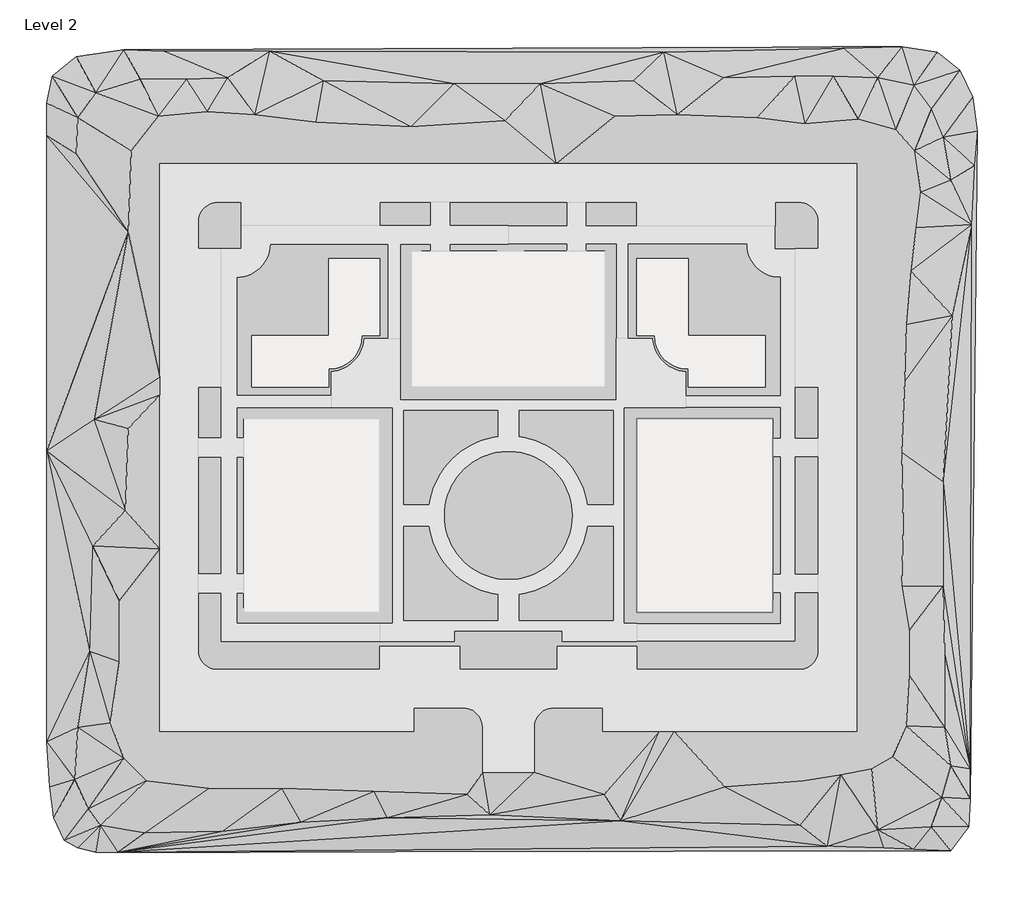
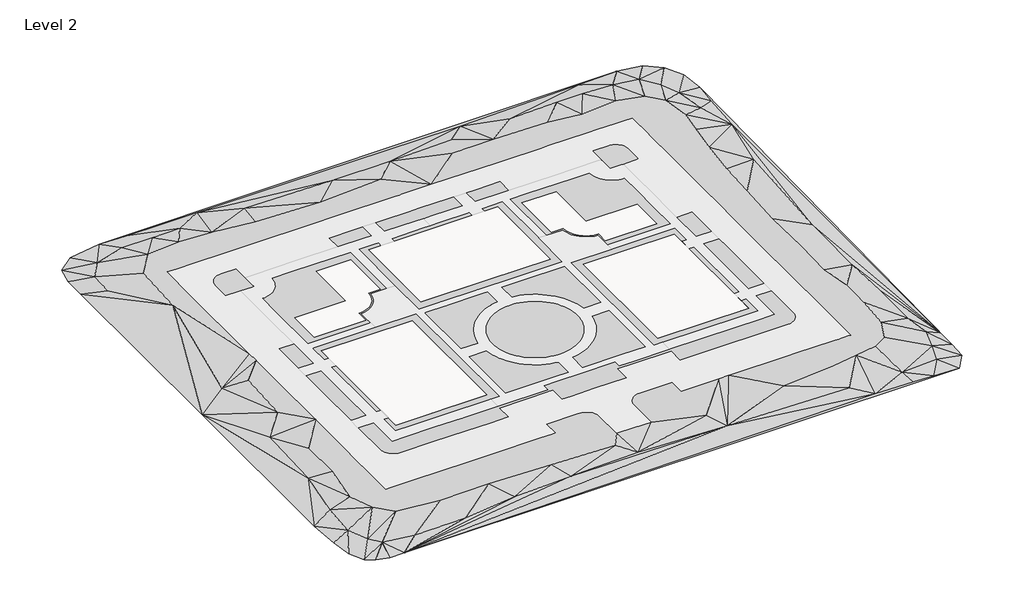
# One storey, part 2 of 3: 2 proxies.
"""IFC4 building model written with IfcOpenShell, lengths in millimetres."""

import ifcopenshell
import ifcopenshell.guid

model = None  # the IFC model being written
_history = None  # IfcOwnerHistory: only IFC2X3 demands one
_inside = {}  # id of a spatial element -> (the spatial element, [elements in it])
_under = {}  # id of a project, library or spatial element -> (it, [spatial elements below it])
_declared = {}  # id of a project -> (the project, [libraries it declares])
_typed = {}  # id of a type object -> (the type object, [elements of that type])
_made_of = {}  # id of a material, layer set ... -> (it, [elements and type objects made of it])


def new_model(schema):
    """Start an empty IFC model of exactly this schema.

    Asked for "IFC4X3", IfcOpenShell would pick the latest addendum, in which some entities
    have other attributes; the version numbers below select the first issue.
    IFC2X3 requires an IfcOwnerHistory on every rooted entity: one is made here for all.
    """
    global model, _history
    if schema == "IFC4X3":
        model = ifcopenshell.file(schema_version=(4, 3, 0, 0))
    else:
        model = ifcopenshell.file(schema=schema)
    _inside.clear()
    _under.clear()
    _declared.clear()
    _typed.clear()
    _made_of.clear()
    _history = None
    if model.schema == "IFC2X3":
        org = make("IfcOrganization", Name="unknown")
        user = make(
            "IfcPersonAndOrganization",
            ThePerson=make("IfcPerson", FamilyName="unknown"),
            TheOrganization=org,
        )
        app = make(
            "IfcApplication",
            ApplicationDeveloper=org,
            Version="unknown",
            ApplicationFullName="unknown",
            ApplicationIdentifier="unknown",
        )
        _history = make(
            "IfcOwnerHistory",
            OwningUser=user,
            OwningApplication=app,
            ChangeAction="ADDED",
            CreationDate=0,
        )
    return model


def make(cls, **values):
    """One entity of the class cls with the attributes given. An attribute that is None is left unset."""
    return model.create_entity(
        cls, **{name: value for name, value in values.items() if value is not None}
    )


def rooted(cls, **values):
    """An entity with a GlobalId (a new one), such as an element, a storey or a relation."""
    return make(cls, GlobalId=ifcopenshell.guid.new(), OwnerHistory=_history, **values)


def si_unit(unit_type, name, prefix=None):
    """IfcSIUnit, for example si_unit("LENGTHUNIT", "METRE", prefix="MILLI")."""
    return make("IfcSIUnit", UnitType=unit_type, Prefix=prefix, Name=name)


def assignment(units):
    """IfcUnitAssignment: the units of a project."""
    return None if units is None else make("IfcUnitAssignment", Units=units)


def point(xyz):
    """IfcCartesianPoint."""
    return None if xyz is None else make("IfcCartesianPoint", Coordinates=xyz)


def direction(xyz):
    """IfcDirection."""
    return None if xyz is None else make("IfcDirection", DirectionRatios=xyz)


def frame(location, z_axis=None, x_axis=None):
    """IfcAxis2Placement3D, a coordinate frame: its origin and axes. An axis left out is left unset."""
    return make(
        "IfcAxis2Placement3D",
        Location=point(location),
        Axis=direction(z_axis),
        RefDirection=direction(x_axis),
    )


def origin():
    """The frame at (0, 0, 0) with its axes left unset."""
    return frame((0.0, 0.0, 0.0))


def place(relative_to, where):
    """IfcLocalPlacement: puts the frame where relative to a parent placement (None: the world)."""
    return make(
        "IfcLocalPlacement", PlacementRelTo=relative_to, RelativePlacement=where
    )


def context(
    kind, dimensions, precision=None, world=None, true_north=None, identifier=None
):
    """IfcGeometricRepresentationContext, for example the 3D "Model" context."""
    return make(
        "IfcGeometricRepresentationContext",
        ContextIdentifier=identifier,
        ContextType=kind,
        CoordinateSpaceDimension=dimensions,
        Precision=precision,
        WorldCoordinateSystem=world,
        TrueNorth=true_north,
    )


def project(units=None, contexts=None):
    """IfcProject with its units and contexts."""
    return rooted(
        "IfcProject",
        Name="project",
        RepresentationContexts=contexts,
        UnitsInContext=assignment(units),
    )


def spatial(cls, under=None, at=None, **own):
    """A site, building, storey or space (cls), placed at a placement, below another one or the project."""
    s = rooted(cls, ObjectPlacement=at, **own)
    if under is not None:
        _under.setdefault(under.id(), (under, []))[1].append(s)
    return s


def point_list(points):
    """IfcCartesianPointList2D or 3D."""
    cls = (
        "IfcCartesianPointList2D" if len(points[0]) == 2 else "IfcCartesianPointList3D"
    )
    return make(cls, CoordList=points)


def triangles(points, corners, closed=None, point_numbers=None):
    """IfcTriangulatedFaceSet: each triangle names its three corners, points numbered from 1."""
    return make(
        "IfcTriangulatedFaceSet",
        Coordinates=point_list(points),
        Closed=closed,
        CoordIndex=corners,
        PnIndex=point_numbers,
    )


def shape(context_of_items, identifier, shape_type, items):
    """IfcShapeRepresentation: the items that make up one representation, for example the "Body"."""
    return make(
        "IfcShapeRepresentation",
        ContextOfItems=context_of_items,
        RepresentationIdentifier=identifier,
        RepresentationType=shape_type,
        Items=items,
    )


def made_of(thing, what):
    """Note that an element or type object is made of a material, layer set ...; save() writes the relation."""
    if what is not None:
        _made_of.setdefault(what.id(), (what, []))[1].append(thing)
    return thing


def element(
    cls,
    number,
    at=None,
    inside=None,
    cuts=None,
    type_object=None,
    material=None,
    context=None,
    identifier="Body",
    shape_type=None,
    held_by="IfcProductDefinitionShape",
    body=None,
    shapes=None,
    **own,
):
    """One element of the class cls, such as IfcWall. Its Tag is "e" and its number.

    at: its placement. inside: the storey or other place that contains it. cuts: it is an
    opening in that element (IfcRelVoidsElement). A single representation is given by context,
    identifier, shape_type and body (its items); several are given by shapes. held_by: the class
    of the entity that holds the representations. save() writes the other relations.
    """
    e = rooted(cls, Tag="e%d" % number, ObjectPlacement=at, **own)
    if body is not None:
        shapes = [shape(context, identifier, shape_type, body)]
    if shapes is not None:
        e.Representation = make(held_by, Representations=shapes)
    if inside is not None:
        _inside.setdefault(inside.id(), (inside, []))[1].append(e)
    if cuts is not None:
        rooted(
            "IfcRelVoidsElement", RelatingBuildingElement=cuts, RelatedOpeningElement=e
        )
    if type_object is not None:
        _typed.setdefault(type_object.id(), (type_object, []))[1].append(e)
    return made_of(e, material)


def aggregate(whole, parts):
    """IfcRelAggregates: a whole, such as a stair, and the parts it consists of."""
    return rooted("IfcRelAggregates", RelatingObject=whole, RelatedObjects=parts)


def save(model, path):
    """Write the relations noted so far, then the file.

    IfcRelAggregates (storeys below a building ...), IfcRelContainedInSpatialStructure (elements
    in a storey), IfcRelDefinesByType, IfcRelAssociatesMaterial and IfcRelDeclares: one each for
    every whole, place, type object, material and project.
    """
    for whole, parts in _under.values():
        aggregate(whole, parts)
    for where, things in _inside.values():
        rooted(
            "IfcRelContainedInSpatialStructure",
            RelatedElements=things,
            RelatingStructure=where,
        )
    for kind, things in _typed.values():
        rooted("IfcRelDefinesByType", RelatedObjects=things, RelatingType=kind)
    for what, things in _made_of.values():
        rooted("IfcRelAssociatesMaterial", RelatedObjects=things, RelatingMaterial=what)
    for by, libraries in _declared.values():
        rooted("IfcRelDeclares", RelatingContext=by, RelatedDefinitions=libraries)
    model.write(path)


model = new_model("IFC4")

# Units and contexts
model_context = context("Model", 3, world=origin())
ifc_project = project(units=[si_unit("LENGTHUNIT", "METRE", prefix="MILLI")], contexts=[model_context])

# Site, building, storey
site = spatial("IfcSite", under=ifc_project)
building = spatial("IfcBuilding", under=site)
storey = spatial("IfcBuildingStorey", under=building, Name="Level 2", Elevation=3047.9999999)

# Proxies
placement = place(None, origin())
element("IfcBuildingElementProxy", 1, Name="Building Element Proxy", at=placement, inside=storey, context=model_context, shape_type="Tessellation", body=[
    triangles([(-199970.6219238, -770.6450392, 0.0), (-199970.6219238, -75600.9481934, 0.0), (-199970.6219238, -144783.6834961, 0.0), (-199264.6743164, -155372.8790039, 0.0), (-198205.762207, -162785.3195801, 0.0), (-195734.9362793, -168079.917334, 0.0), (-192558.1813477, -169844.7770508, 0.0), (-188322.5143066, -170903.6891602, 0.0), (-183027.9165527, -170903.6891602, 0.0), (14637.0472687, -170550.7246582, 0.0), (18872.7247742, -164903.1624023, 0.0), (19225.6974152, -158196.6694336, 0.0), (20990.5629456, 288.2743554, 0.0), (19931.6438599, 8406.6566345, 0.0), (16754.8854401, 14760.1734741, 0.0), (11460.2888489, 18995.8509796, 0.0), (2988.9332565, 20407.7427063, 0.0), (-181616.0213379, 19701.7974243, 0.0), (-192911.1644531, 17936.9307312, 0.0), (-198558.726709, 13348.2805847, 0.0), (-199970.6219238, 6994.7637451, 0.0), (-120842.3541504, -30007.5218628, 3048.0), (-120842.3541504, -48295.5218628, 3048.0), (-125109.5541504, -48295.5218628, 3048.0), (-125159.383667, -49182.8165405, 3048.0), (-125308.248999, -50058.9537598, 3048.0), (-125554.2711914, -50912.9155884, 3048.0), (-125894.3620605, -51733.963147, 3048.0), (-126324.2334961, -52511.7714844, 3048.0), (-126838.4997803, -53236.5551514, 3048.0), (-127430.6775879, -53899.2030762, 3048.0), (-128093.3255127, -54491.3808838, 3048.0), (-128818.1091797, -55005.6425171, 3048.0), (-129595.9128662, -55435.5186035, 3048.0), (-130416.9604248, -55775.6094727, 3048.0), (-131270.9269043, -56021.631665, 3048.0), (-132147.0594727, -56170.4923462, 3048.0), (-133034.3541504, -56220.3218628, 3048.0), (-133034.3541504, -60487.5218628, 3048.0), (-151322.3541504, -60487.5218628, 3048.0), (-151322.3541504, -48295.5218628, 3048.0), (-133034.3541504, -48295.5218628, 3048.0), (-133034.3541504, -30007.5218628, 3048.0), (-59882.3588013, -30007.5218628, 3048.0), (-52023.1268921, -30007.5218628, 3048.0), (-47690.3588013, -30007.5218628, 3048.0), (-47690.3588013, -33626.2753967, 3048.0), (-47690.3588013, -48295.5218628, 3048.0), (-30126.7308655, -48295.5218628, 3048.0), (-29402.3588013, -48295.5218628, 3048.0), (-29402.3588013, -48900.5221436, 3048.0), (-29402.3588013, -60487.5218628, 3048.0), (-47690.3588013, -60487.5218628, 3048.0), (-47690.3588013, -56220.3218628, 3048.0), (-48577.653479, -56170.4923462, 3048.0), (-49453.7906982, -56021.631665, 3048.0), (-50307.7525269, -55775.6094727, 3048.0), (-51128.8000854, -55435.5186035, 3048.0), (-51906.603772, -55005.6425171, 3048.0), (-52631.3920898, -54491.3808838, 3048.0), (-53294.0400146, -53899.2030762, 3048.0), (-53886.2178223, -53236.5551514, 3048.0), (-54400.4794556, -52511.7714844, 3048.0), (-54830.355542, -51733.963147, 3048.0), (-55170.4464111, -50912.9155884, 3048.0), (-55416.4686035, -50058.9537598, 3048.0), (-55565.3292847, -49182.8165405, 3048.0), (-55615.1588013, -48295.5218628, 3048.0), (-59882.3588013, -48295.5218628, 3048.0), (-96458.3541504, -141259.5265137, 3048.0), (-96504.8908447, -140608.8592529, 3048.0), (-96643.5521484, -139971.4376953, 3048.0), (-96871.5196289, -139360.2470947, 3048.0), (-97184.1424072, -138787.7145996, 3048.0), (-97575.0673828, -138265.4953125, 3048.0), (-98036.332251, -137804.2304443, 3048.0), (-98558.5515381, -137413.3147705, 3048.0), (-98978.0329102, -137184.2496826, 3048.0), (-99131.0840332, -137100.6826904, 3048.0), (-99742.2746338, -136872.7245117, 3048.0), (-100379.6961914, -136734.0539063, 3048.0), (-101030.3541504, -136687.5265137, 3048.0), (-101809.9809814, -136687.5265137, 3048.0), (-112765.1541504, -136687.5265137, 3048.0), (-112765.1541504, -142173.9265137, 3048.0), (-113948.1331055, -142173.9265137, 3048.0), (-118098.4844238, -142173.9265137, 3048.0), (-134914.7603027, -142173.9265137, 3048.0), (-141364.1619873, -142173.9265137, 3048.0), (-155924.3616211, -142173.9265137, 3048.0), (-161579.2164551, -142173.9265137, 3048.0), (-171062.6189941, -142173.9265137, 3048.0), (-173115.5541504, -142173.9265137, 3048.0), (-173115.5541504, -139265.5924072, 3048.0), (-173115.5541504, -133177.6942383, 3048.0), (-173115.5541504, -122301.5302002, 3048.0), (-173115.5541504, -118406.8004883, 3048.0), (-173115.5541504, -98940.6863525, 3048.0), (-173115.5541504, -96485.831543, 3048.0), (-173115.5541504, -78335.3859375, 3048.0), (-173115.5541504, -62355.6543457, 3048.0), (-173115.5541504, -58140.023291, 3048.0), (-173115.5541504, -19343.470459, 3048.0), (-173115.5541504, -16797.6432953, 3048.0), (-173115.5541504, -12340.9792786, 3048.0), (-173115.5541504, -7452.3218628, 3048.0), (-169916.8098633, -7452.3218628, 3048.0), (-163060.4655762, -7452.3218628, 3048.0), (-152868.4644287, -7452.3218628, 3048.0), (-142112.3953857, -7452.3218628, 3048.0), (-121728.1977539, -7452.3218628, 3048.0), (-112747.4808105, -7452.3218628, 3048.0), (-91818.4420166, -7452.3218628, 3048.0), (-90362.3541504, -7452.3218628, 3048.0), (-89744.5965088, -7452.3218628, 3048.0), (-79028.6831543, -7452.3218628, 3048.0), (-55510.2210205, -7452.3218628, 3048.0), (-52788.1732178, -7452.3218628, 3048.0), (-40375.0099731, -7452.3218628, 3048.0), (-37615.0575073, -7452.3218628, 3048.0), (-23395.2487244, -7452.3218628, 3048.0), (-20332.1054626, -7452.3218628, 3048.0), (-13137.2725342, -7452.3218628, 3048.0), (-9769.8966797, -7452.3218628, 3048.0), (-7609.1582199, -7452.3218628, 3048.0), (-7609.1582199, -9469.011557, 3048.0), (-7609.1582199, -15160.5374084, 3048.0), (-7609.1582199, -20175.2708496, 3048.0), (-7609.1582199, -29394.9894836, 3048.0), (-7609.1582199, -34925.2565735, 3048.0), (-7609.1582199, -45786.2285156, 3048.0), (-7609.1582199, -48692.6557617, 3048.0), (-7609.1582199, -63543.7213623, 3048.0), (-7609.1582199, -67102.3320557, 3048.0), (-7609.1582199, -88141.7269043, 3048.0), (-7609.1582199, -103111.0178467, 3048.0), (-7609.1582199, -109311.1696289, 3048.0), (-7609.1582199, -119744.5513916, 3048.0), (-7609.1582199, -128757.108252, 3048.0), (-7609.1582199, -135897.4445068, 3048.0), (-7609.1582199, -141262.8472412, 3048.0), (-7609.1582199, -142173.9265137, 3048.0), (-8520.228772, -142173.9265137, 3048.0), (-12021.3371613, -142173.9265137, 3048.0), (-14368.7717834, -142173.9265137, 3048.0), (-27380.2333923, -142173.9265137, 3048.0), (-30015.5818359, -142173.9265137, 3048.0), (-50988.4086548, -142173.9265137, 3048.0), (-54593.6723145, -142173.9265137, 3048.0), (-67959.5588013, -142173.9265137, 3048.0), (-67959.5588013, -136687.5265137, 3048.0), (-70630.3399658, -136687.5265137, 3048.0), (-79694.3541504, -136687.5265137, 3048.0), (-80345.0214111, -136734.0539063, 3048.0), (-80982.4429688, -136872.7245117, 3048.0), (-81593.6335693, -137100.6826904, 3048.0), (-82166.1660645, -137413.3147705, 3048.0), (-82688.3853516, -137804.2304443, 3048.0), (-83149.640918, -138265.4953125, 3048.0), (-83540.5658936, -138787.7145996, 3048.0), (-83853.1979736, -139360.2470947, 3048.0), (-84081.1561523, -139971.4376953, 3048.0), (-84219.8174561, -140608.8592529, 3048.0), (-84266.3541504, -141259.5265137, 3048.0), (-84266.3541504, -151927.5265137, 3048.0), (-90362.3541504, -151927.5265137, 3048.0), (-96458.3541504, -151927.5265137, 3048.0), (-153151.1541504, -67955.1218628, 3048.0), (-120842.3541504, -67955.1218628, 3048.0), (-120842.3541504, -113979.9265137, 3048.0), (-140079.1613525, -113979.9265137, 3048.0), (-152049.379541, -113979.9265137, 3048.0), (-153151.1541504, -113979.9265137, 3048.0), (-153151.1541504, -113064.9684082, 3048.0), (-153151.1541504, -109407.9265137, 3048.0), (-154848.0459229, -109407.9265137, 3048.0), (-154848.0459229, -111655.8079102, 3048.0), (-154848.0459229, -116570.7265137, 3048.0), (-148929.5606689, -116570.7265137, 3048.0), (-137677.9311768, -116570.7265137, 3048.0), (-120842.3541504, -116570.7265137, 3048.0), (-117794.3541504, -116570.7265137, 3048.0), (-117794.3541504, -65364.3218628, 3048.0), (-132424.7541504, -65364.3218628, 3048.0), (-154848.0459229, -65364.3218628, 3048.0), (-154848.0459229, -72527.1218628, 3048.0), (-153151.1541504, -72527.1218628, 3048.0), (-67349.9588013, -28178.7218628, 3048.0), (-67349.9588013, -60487.5218628, 3048.0), (-81900.5357666, -60487.5218628, 3048.0), (-94745.3238281, -60487.5218628, 3048.0), (-108258.9733887, -60487.5218628, 3048.0), (-113374.7541504, -60487.5218628, 3048.0), (-113374.7541504, -28178.7218628, 3048.0), (-110993.3460205, -28178.7218628, 3048.0), (-108802.7541504, -28178.7218628, 3048.0), (-108802.7541504, -26481.8370667, 3048.0), (-111136.9651611, -26481.8370667, 3048.0), (-115965.5541504, -26481.8370667, 3048.0), (-115965.5541504, -48905.1218628, 3048.0), (-115965.5541504, -63535.5218628, 3048.0), (-108001.017041, -63535.5218628, 3048.0), (-94913.5368164, -63535.5218628, 3048.0), (-81449.735376, -63535.5218628, 3048.0), (-64759.1588013, -63535.5218628, 3048.0), (-64759.1588013, -48905.1218628, 3048.0), (-64759.1588013, -26481.8370667, 3048.0), (-71921.9588013, -26481.8370667, 3048.0), (-71921.9588013, -28178.7218628, 3048.0), (-27573.5588013, -113979.9265137, 3048.0), (-30077.1524963, -113979.9265137, 3048.0), (-59882.3588013, -113979.9265137, 3048.0), (-59882.3588013, -67955.1218628, 3048.0), (-27573.5588013, -67955.1218628, 3048.0), (-27573.5588013, -72527.1218628, 3048.0), (-25876.6740051, -72527.1218628, 3048.0), (-25876.6740051, -65364.3218628, 3048.0), (-48299.9588013, -65364.3218628, 3048.0), (-62930.3588013, -65364.3218628, 3048.0), (-62930.3588013, -116570.7265137, 3048.0), (-59882.3588013, -116570.7265137, 3048.0), (-32330.0219604, -116570.7265137, 3048.0), (-25876.6740051, -116570.7265137, 3048.0), (-25876.6740051, -109407.9265137, 3048.0), (-26101.4998169, -109407.9265137, 3048.0), (-27573.5588013, -109407.9265137, 3048.0), (-27573.5588013, -111100.790625, 3048.0), (-120842.3541504, -16596.3218628, 3048.0), (-120842.3541504, -22082.7218628, 3048.0), (-111509.2680176, -22082.7218628, 3048.0), (-108802.7541504, -22082.7218628, 3048.0), (-108802.7541504, -16596.3218628, 3048.0), (-111973.5931641, -16596.3218628, 3048.0), (-92323.0716797, -16596.3218628, 3048.0), (-104230.7541504, -16596.3218628, 3048.0), (-104230.7541504, -22082.7218628, 3048.0), (-92625.8531982, -22082.7218628, 3048.0), (-90362.3541504, -22082.7218628, 3048.0), (-87580.7192871, -22082.7218628, 3048.0), (-76493.9588013, -22082.7218628, 3048.0), (-76493.9588013, -16596.3218628, 3048.0), (-88392.1767334, -16596.3218628, 3048.0), (-68080.4816528, -16596.3218628, 3048.0), (-71921.9588013, -16596.3218628, 3048.0), (-71921.9588013, -22082.7218628, 3048.0), (-61511.5616821, -22082.7218628, 3048.0), (-59882.3588013, -22082.7218628, 3048.0), (-59882.3588013, -16596.3218628, 3048.0), (-26963.9588013, -22082.7218628, 3048.0), (-26963.9588013, -23142.3757874, 3048.0), (-26963.9588013, -27569.1218628, 3048.0), (-23180.2037109, -27569.1218628, 3048.0), (-22239.5588013, -27569.1218628, 3048.0), (-16753.1576385, -27569.1218628, 3048.0), (-16753.1576385, -26553.1513184, 3048.0), (-16753.1576385, -21168.3218628, 3048.0), (-16799.6943329, -20517.6592529, 3048.0), (-16938.3556366, -19880.2400208, 3048.0), (-17166.3207916, -19269.0447693, 3048.0), (-17478.9470581, -18696.5122742, 3048.0), (-17869.870871, -18174.2988007, 3048.0), (-18331.1345764, -17713.0350952, 3048.0), (-18853.3480499, -17322.1112823, 3048.0), (-19425.880545, -17009.4838531, 3048.0), (-20037.0769592, -16781.5198608, 3048.0), (-20674.493866, -16642.8585571, 3048.0), (-21325.1588013, -16596.3218628, 3048.0), (-26963.9588013, -16596.3218628, 3048.0), (-26963.9588013, -17204.3033569, 3048.0), (-22239.5588013, -60487.5218628, 3048.0), (-22239.5588013, -72527.1218628, 3048.0), (-16753.1576385, -72527.1218628, 3048.0), (-16753.1576385, -60487.5218628, 3048.0), (-16753.1576385, -98657.3269043, 3048.0), (-16753.1576385, -77099.1218628, 3048.0), (-22239.5588013, -77099.1218628, 3048.0), (-22239.5588013, -104835.9265137, 3048.0), (-22125.8471375, -104835.9265137, 3048.0), (-16753.1576385, -104835.9265137, 3048.0), (-16753.1576385, -111345.1664063, 3048.0), (-16753.1576385, -109407.9265137, 3048.0), (-22239.5588013, -109407.9265137, 3048.0), (-22239.5588013, -116285.655542, 3048.0), (-22239.5588013, -120837.9265137, 3048.0), (-27294.8409302, -120837.9265137, 3048.0), (-36040.6303528, -120837.9265137, 3048.0), (-59882.3588013, -120837.9265137, 3048.0), (-72974.5410645, -120837.9265137, 3048.0), (-77560.7588013, -120837.9265137, 3048.0), (-77560.7588013, -118399.5265137, 3048.0), (-90362.3541504, -118399.5265137, 3048.0), (-97941.352002, -118399.5265137, 3048.0), (-103163.9541504, -118399.5265137, 3048.0), (-103163.9541504, -120689.163501, 3048.0), (-103163.9541504, -120837.9265137, 3048.0), (-120842.3541504, -120837.9265137, 3048.0), (-133722.9632813, -120837.9265137, 3048.0), (-143791.0557129, -120837.9265137, 3048.0), (-153767.2095703, -120837.9265137, 3048.0), (-158485.1541504, -120837.9265137, 3048.0), (-158485.1541504, -115498.4384766, 3048.0), (-158485.1541504, -109407.9265137, 3048.0), (-163866.7233398, -109407.9265137, 3048.0), (-163971.5541504, -109407.9265137, 3048.0), (-163971.5541504, -122971.5265137, 3048.0), (-163925.0267578, -123622.1844727, 3048.0), (-163786.3561523, -124259.6060303, 3048.0), (-163558.3886719, -124870.7966309, 3048.0), (-163245.7751953, -125443.329126, 3048.0), (-162854.840918, -125965.5484131, 3048.0), (-162393.5853516, -126426.8132813, 3048.0), (-161871.3660645, -126817.7289551, 3048.0), (-161298.8428711, -127130.3610352, 3048.0), (-160687.6429688, -127358.3192139, 3048.0), (-160050.2307129, -127496.9898193, 3048.0), (-159399.5541504, -127543.5265137, 3048.0), (-147842.1479736, -127543.5265137, 3048.0), (-135716.2462646, -127543.5265137, 3048.0), (-127508.0124023, -127543.5265137, 3048.0), (-120842.3541504, -127543.5265137, 3048.0), (-120842.3541504, -122057.1265137, 3048.0), (-103048.1844727, -122057.1265137, 3048.0), (-101944.7541504, -122057.1265137, 3048.0), (-101944.7541504, -127543.5265137, 3048.0), (-98445.9909668, -127543.5265137, 3048.0), (-90362.3541504, -127543.5265137, 3048.0), (-78779.9541504, -127543.5265137, 3048.0), (-78779.9541504, -122057.1265137, 3048.0), (-72794.2171875, -122057.1265137, 3048.0), (-59882.3588013, -122057.1265137, 3048.0), (-59882.3588013, -127543.5265137, 3048.0), (-41871.5883911, -127543.5265137, 3048.0), (-34741.3910522, -127543.5265137, 3048.0), (-21325.1588013, -127543.5265137, 3048.0), (-20674.493866, -127496.9898193, 3048.0), (-20037.0769592, -127358.3192139, 3048.0), (-19872.0754028, -127296.7787842, 3048.0), (-19425.880545, -127130.3610352, 3048.0), (-18853.3480499, -126817.7289551, 3048.0), (-18331.1345764, -126426.8132813, 3048.0), (-17869.870871, -125965.5484131, 3048.0), (-17478.9470581, -125443.329126, 3048.0), (-17166.3207916, -124870.7966309, 3048.0), (-16938.3556366, -124259.6060303, 3048.0), (-16799.6943329, -123622.1844727, 3048.0), (-16753.1576385, -122971.5265137, 3048.0), (-16753.1576385, -122722.3696289, 3048.0), (-153151.1541504, -104835.9265137, 3048.0), (-153151.1541504, -99875.92229, 3048.0), (-153151.1541504, -77099.1218628, 3048.0), (-154848.0459229, -77099.1218628, 3048.0), (-154848.0459229, -98045.0666016, 3048.0), (-154848.0459229, -104835.9265137, 3048.0), (-132424.7541504, -62500.8408325, 3048.0), (-132424.7541504, -56808.1231934, 3048.0), (-131561.2533691, -56701.827356, 3048.0), (-130713.0632813, -56508.1694092, 3048.0), (-129888.9926514, -56229.1631836, 3048.0), (-129097.6083984, -55867.7061768, 3048.0), (-128347.1425781, -55427.5609497, 3048.0), (-127645.3807617, -54913.2946655, 3048.0), (-126999.6248291, -54330.255835, 3048.0), (-126416.5813477, -53684.4999023, 3048.0), (-125902.3150635, -52982.7380859, 3048.0), (-125462.1744873, -52232.2676147, 3048.0), (-125100.7174805, -51440.8880127, 3048.0), (-124821.7112549, -50616.8173828, 3048.0), (-124628.057959, -49768.622644, 3048.0), (-124521.7574707, -48905.1218628, 3048.0), (-118829.0351807, -48905.1218628, 3048.0), (-118829.0351807, -26481.8370667, 3048.0), (-139539.0826904, -26481.8370667, 3048.0), (-146923.2459229, -26481.8370667, 3048.0), (-146973.0754395, -27369.1340698, 3048.0), (-147121.9314697, -28245.2712891, 3048.0), (-147367.9536621, -29099.2331177, 3048.0), (-147708.0445312, -29920.2783508, 3048.0), (-148137.9252686, -30698.0843628, 3048.0), (-148652.182251, -31422.8680298, 3048.0), (-149244.3600586, -32085.5159546, 3048.0), (-149907.0079834, -32677.6960876, 3048.0), (-150631.7916504, -33191.9577209, 3048.0), (-151409.6046387, -33621.8361328, 3048.0), (-152230.6428955, -33961.9246765, 3048.0), (-153084.609375, -34207.9468689, 3048.0), (-153960.7512451, -34356.80755, 3048.0), (-154848.0459229, -34406.6370667, 3048.0), (-154848.0459229, -42838.2549683, 3048.0), (-154848.0459229, -62500.8408325, 3048.0), (-104230.7541504, -28178.7218628, 3048.0), (-92962.2791748, -28178.7218628, 3048.0), (-86679.0999023, -28178.7218628, 3048.0), (-76493.9588013, -28178.7218628, 3048.0), (-76493.9588013, -26481.8370667, 3048.0), (-86930.0799316, -26481.8370667, 3048.0), (-90362.3541504, -26481.8370667, 3048.0), (-92868.6290771, -26481.8370667, 3048.0), (-104230.7541504, -26481.8370667, 3048.0), (-163971.5541504, -104079.330835, 3048.0), (-163971.5541504, -104835.9265137, 3048.0), (-163060.4841797, -104835.9265137, 3048.0), (-158485.1541504, -104835.9265137, 3048.0), (-158485.1541504, -94120.8131104, 3048.0), (-158485.1541504, -77099.1218628, 3048.0), (-163971.5541504, -77099.1218628, 3048.0), (-163971.5541504, -88201.2767578, 3048.0), (-163971.5541504, -60487.5218628, 3048.0), (-163971.5541504, -72527.1218628, 3048.0), (-158485.1541504, -72527.1218628, 3048.0), (-158485.1541504, -60487.5218628, 3048.0), (-158485.1541504, -27569.1218628, 3048.0), (-154416.8536377, -27569.1218628, 3048.0), (-153760.7541504, -27569.1218628, 3048.0), (-153760.7541504, -26496.4640808, 3048.0), (-153760.7541504, -22082.7218628, 3048.0), (-153760.7541504, -16596.3218628, 3048.0), (-159399.5541504, -16596.3218628, 3048.0), (-160050.2307129, -16642.8585571, 3048.0), (-160687.6429688, -16781.5198608, 3048.0), (-161298.8428711, -17009.4838531, 3048.0), (-161871.3660645, -17322.1112823, 3048.0), (-162393.5853516, -17713.0350952, 3048.0), (-162854.840918, -18174.2988007, 3048.0), (-163245.7751953, -18696.5122742, 3048.0), (-163558.3886719, -19269.0447693, 3048.0), (-163786.3561523, -19880.2400208, 3048.0), (-163925.0267578, -20517.6592529, 3048.0), (-163971.5541504, -21168.3218628, 3048.0), (-163971.5541504, -27569.1218628, 3048.0), (-27573.5588013, -77099.1218628, 3048.0), (-27573.5588013, -104835.9265137, 3048.0), (-25876.6740051, -104835.9265137, 3048.0), (-25876.6740051, -77099.1218628, 3048.0), (-48299.9588013, -56808.1231934, 3048.0), (-48299.9588013, -62500.8408325, 3048.0), (-25876.6740051, -62500.8408325, 3048.0), (-25876.6740051, -51845.1982178, 3048.0), (-25876.6740051, -42152.7479736, 3048.0), (-25876.6740051, -34406.6370667, 3048.0), (-26763.9686829, -34356.80755, 3048.0), (-27640.1059021, -34207.9468689, 3048.0), (-28494.0677307, -33961.9246765, 3048.0), (-29315.1152893, -33621.8361328, 3048.0), (-30092.9213013, -33191.9577209, 3048.0), (-30817.7049683, -32677.6960876, 3048.0), (-31480.3528931, -32085.5159546, 3048.0), (-32072.5307007, -31422.8680298, 3048.0), (-32586.792334, -30698.0843628, 3048.0), (-33016.6707458, -29920.2783508, 3048.0), (-33356.7592896, -29099.2331177, 3048.0), (-33602.7814819, -28245.2712891, 3048.0), (-33751.6444885, -27369.1340698, 3048.0), (-33801.4740051, -26481.8370667, 3048.0), (-39259.3524902, -26481.8370667, 3048.0), (-56244.4599243, -26481.8370667, 3048.0), (-61895.677771, -26481.8370667, 3048.0), (-61895.677771, -48905.1218628, 3048.0), (-56202.9601318, -48905.1218628, 3048.0), (-56096.6642944, -49768.622644, 3048.0), (-55903.0063477, -50616.8173828, 3048.0), (-55624.0001221, -51440.8880127, 3048.0), (-55262.5431152, -52232.2676147, 3048.0), (-54822.3978882, -52982.7380859, 3048.0), (-54308.131604, -53684.4999023, 3048.0), (-53725.0881226, -54330.255835, 3048.0), (-53079.3368408, -54913.2946655, 3048.0), (-52377.5750244, -55427.5609497, 3048.0), (-51627.1045532, -55867.7061768, 3048.0), (-50835.7249512, -56229.1631836, 3048.0), (-50011.6543213, -56508.1694092, 3048.0), (-49163.4595825, -56701.827356, 3048.0), (-92800.7541504, -65973.9218628, 3048.0), (-95048.1053467, -65973.9218628, 3048.0), (-107794.6482422, -65973.9218628, 3048.0), (-115355.9541504, -65973.9218628, 3048.0), (-115355.9541504, -88529.1265137, 3048.0), (-109101.9823975, -88529.1265137, 3048.0), (-108874.6474365, -87170.8838379, 3048.0), (-108549.0021973, -85832.807373, 3048.0), (-108126.7768066, -84522.0036621, 3048.0), (-107610.2129883, -83245.4211182, 3048.0), (-107002.0547607, -82009.8500244, 3048.0), (-106508.6988281, -81168.3851074, 3048.0), (-106305.529834, -80821.8574219, 3048.0), (-105524.3403076, -79687.7312988, 3048.0), (-104662.6254639, -78613.5177979, 3048.0), (-103724.9803711, -77604.900293, 3048.0), (-102716.3628662, -76667.2505493, 3048.0), (-101642.1493652, -75805.5403564, 3048.0), (-100508.0232422, -75024.3508301, 3048.0), (-99320.0213379, -74327.8259033, 3048.0), (-98084.4595459, -73719.6676758, 3048.0), (-96807.877002, -73203.1038574, 3048.0), (-95497.073291, -72780.8784668, 3048.0), (-95422.7708496, -72762.7958496, 3048.0), (-94158.9968262, -72455.2332275, 3048.0), (-92800.7541504, -72227.8982666, 3048.0), (-92800.7541504, -115961.1265137, 3048.0), (-92800.7541504, -109707.145459, 3048.0), (-94158.9968262, -109479.810498, 3048.0), (-95497.073291, -109154.1652588, 3048.0), (-96807.877002, -108731.9398682, 3048.0), (-97394.7156006, -108494.475293, 3048.0), (-98084.4595459, -108215.3760498, 3048.0), (-99320.0213379, -107607.2178223, 3048.0), (-100508.0232422, -106910.6928955, 3048.0), (-101642.1493652, -106129.5033691, 3048.0), (-102716.3628662, -105267.7978271, 3048.0), (-103724.9803711, -104330.1434326, 3048.0), (-104630.9436768, -103355.6168701, 3048.0), (-104662.6254639, -103321.5259277, 3048.0), (-105524.3403076, -102247.3124268, 3048.0), (-106305.529834, -101113.1863037, 3048.0), (-107002.0547607, -99925.1937012, 3048.0), (-107610.2129883, -98689.6226074, 3048.0), (-108126.7768066, -97413.0400635, 3048.0), (-108549.0021973, -96102.2363525, 3048.0), (-108874.6474365, -94764.1598877, 3048.0), (-109101.9823975, -93405.9265137, 3048.0), (-115355.9541504, -93405.9265137, 3048.0), (-115355.9541504, -115961.1265137, 3048.0), (-103564.1064697, -115961.1265137, 3048.0), (-97806.7834717, -115961.1265137, 3048.0), (-105602.3541504, -90967.5265137, 3048.0), (-105552.9432129, -92193.8330566, 3048.0), (-105405.0080566, -93412.1865967, 3048.0), (-105159.5067627, -94614.6899414, 3048.0), (-104818.0578369, -95793.538916, 3048.0), (-104382.8471924, -96941.0967773, 3048.0), (-103856.7118652, -98049.9035156, 3048.0), (-103243.0562988, -99112.7781738, 3048.0), (-102545.8616455, -100122.8374512, 3048.0), (-101769.6578613, -101073.5143066, 3048.0), (-100919.4771973, -101958.6509766, 3048.0), (-100000.8262939, -102772.4989746, 3048.0), (-99019.6675781, -103509.7935059, 3048.0), (-97982.3541504, -104165.7534668, 3048.0), (-97179.0915527, -104587.3370361, 3048.0), (-96895.6297852, -104736.1093506, 3048.0), (-95766.5359131, -105217.1683594, 3048.0), (-94602.3930176, -105605.8144043, 3048.0), (-93410.754126, -105899.5360107, 3048.0), (-92199.3396973, -106096.4077148, 3048.0), (-90976.0097168, -106195.1644775, 3048.0), (-89748.7078857, -106195.1644775, 3048.0), (-88525.3779053, -106096.4077148, 3048.0), (-87313.9634766, -105899.5360107, 3048.0), (-86122.324585, -105605.8144043, 3048.0), (-84958.1816895, -105217.1683594, 3048.0), (-83829.0878174, -104736.1093506, 3048.0), (-82742.3541504, -104165.7534668, 3048.0), (-81705.0500244, -103509.7935059, 3048.0), (-80723.8913086, -102772.4989746, 3048.0), (-79805.2404053, -101958.6509766, 3048.0), (-78955.0504395, -101073.5143066, 3048.0), (-78178.8466553, -100122.8374512, 3048.0), (-77481.6613037, -99112.7781738, 3048.0), (-76868.0103882, -98049.9035156, 3048.0), (-76469.2486816, -97209.5362061, 3048.0), (-76341.8704102, -96941.0967773, 3048.0), (-75906.6644165, -95793.538916, 3048.0), (-75565.206189, -94614.6899414, 3048.0), (-75319.7141968, -93412.1865967, 3048.0), (-75171.7743896, -92193.8330566, 3048.0), (-75122.3588013, -90967.5265137, 3048.0), (-75171.7743896, -89741.2106689, 3048.0), (-75319.7141968, -88522.8571289, 3048.0), (-75565.206189, -87320.3537842, 3048.0), (-75906.6644165, -86141.5048096, 3048.0), (-76341.8704102, -84993.9469482, 3048.0), (-76868.0103882, -83885.14021, 3048.0), (-77481.6613037, -82822.2655518, 3048.0), (-78178.8466553, -81812.2062744, 3048.0), (-78872.1438721, -80963.076709, 3048.0), (-78955.0504395, -80861.5294189, 3048.0), (-79805.2404053, -79976.392749, 3048.0), (-80723.8913086, -79162.544751, 3048.0), (-81705.0500244, -78425.2502197, 3048.0), (-82742.3541504, -77769.2949097, 3048.0), (-83829.0878174, -77198.9390259, 3048.0), (-84958.1816895, -76717.8753662, 3048.0), (-86122.324585, -76329.2246704, 3048.0), (-87313.9634766, -76035.5123657, 3048.0), (-88525.3779053, -75838.6406616, 3048.0), (-89748.7078857, -75739.879248, 3048.0), (-90976.0097168, -75739.879248, 3048.0), (-92199.3396973, -75838.6406616, 3048.0), (-93410.754126, -76035.5123657, 3048.0), (-94602.3930176, -76329.2246704, 3048.0), (-95638.683252, -76675.1895996, 3048.0), (-95766.5359131, -76717.8753662, 3048.0), (-96895.6297852, -77198.9390259, 3048.0), (-97982.3541504, -77769.2949097, 3048.0), (-99019.6675781, -78425.2502197, 3048.0), (-100000.8262939, -79162.544751, 3048.0), (-100919.4771973, -79976.392749, 3048.0), (-101769.6578613, -80861.5294189, 3048.0), (-102545.8616455, -81812.2062744, 3048.0), (-103243.0562988, -82822.2655518, 3048.0), (-103856.7118652, -83885.14021, 3048.0), (-104382.8471924, -84993.9469482, 3048.0), (-104818.0578369, -86141.5048096, 3048.0), (-105159.5067627, -87320.3537842, 3048.0), (-105405.0080566, -88522.8571289, 3048.0), (-105552.9432129, -89741.2106689, 3048.0), (-87923.9541504, -65973.9218628, 3048.0), (-87923.9541504, -72227.8982666, 3048.0), (-86565.7207764, -72455.2332275, 3048.0), (-85227.6443115, -72780.8784668, 3048.0), (-83916.8406006, -73203.1038574, 3048.0), (-82640.2580566, -73719.6676758, 3048.0), (-81404.6869629, -74327.8259033, 3048.0), (-80216.6943604, -75024.3508301, 3048.0), (-79697.6190674, -75381.8917969, 3048.0), (-79082.5682373, -75805.5403564, 3048.0), (-78008.3500854, -76667.2505493, 3048.0), (-76999.7372314, -77604.900293, 3048.0), (-76062.0874878, -78613.5177979, 3048.0), (-75200.3772949, -79687.7312988, 3048.0), (-74419.1877686, -80821.8574219, 3048.0), (-73722.6628418, -82009.8500244, 3048.0), (-73114.5046143, -83245.4211182, 3048.0), (-72597.9407959, -84522.0036621, 3048.0), (-72175.7154053, -85832.807373, 3048.0), (-71850.070166, -87170.8838379, 3048.0), (-71622.7352051, -88529.1265137, 3048.0), (-65368.7588013, -88529.1265137, 3048.0), (-65368.7588013, -65973.9218628, 3048.0), (-81089.0876221, -65973.9218628, 3048.0), (-87923.9541504, -115961.1265137, 3048.0), (-73695.8365723, -115961.1265137, 3048.0), (-65368.7588013, -115961.1265137, 3048.0), (-65368.7588013, -93405.9265137, 3048.0), (-71622.7352051, -93405.9265137, 3048.0), (-71850.070166, -94764.1598877, 3048.0), (-72175.7154053, -96102.2363525, 3048.0), (-72597.9407959, -97413.0400635, 3048.0), (-73114.5046143, -98689.6226074, 3048.0), (-73722.6628418, -99925.1937012, 3048.0), (-74419.1877686, -101113.1863037, 3048.0), (-75200.3772949, -102247.3124268, 3048.0), (-75642.6107666, -102798.599707, 3048.0), (-76062.0874878, -103321.5259277, 3048.0), (-76999.7372314, -104330.1434326, 3048.0), (-78008.3500854, -105267.7978271, 3048.0), (-79082.5682373, -106129.5033691, 3048.0), (-80216.6943604, -106910.6928955, 3048.0), (-81404.6869629, -107607.2178223, 3048.0), (-82640.2580566, -108215.3760498, 3048.0), (-83916.8406006, -108731.9398682, 3048.0), (-85227.6443115, -109154.1652588, 3048.0), (-86565.7207764, -109479.810498, 3048.0), (-87923.9541504, -109707.145459, 3048.0), (-172085.7379395, 19348.8236206, 0.0), (-147024.6536865, 19348.8236206, 0.0), (-53486.7677856, 18995.8509796, 0.0), (-10777.018927, 20054.771228, 0.0), (20284.6176636, -7830.1081055, 0.0), (19578.6700562, -21949.0323486, 0.0), (19225.6974152, -151137.2026611, 0.0), (5812.718454, -170197.7601563, 0.0), (-1246.744249, -169844.7770508, 0.0), (-14659.7237915, -169491.8125488, 0.0), (-192911.1644531, -5006.322908, 1524.0), (-192558.1813477, 3465.0326843, 1524.0), (-188322.5143066, 9465.5757202, 1524.0), (-177733.3187988, 12642.33414, 1524.0), (-166791.1401855, 12642.33414, 1524.0), (-156907.8922852, 12995.306781, 1524.0), (-134317.6153564, 12289.361499, 1524.0), (-103255.9857422, 11583.4150543, 1524.0), (-82783.542334, 11583.4150543, 1524.0), (-60546.2299072, 12289.361499, 1524.0), (-39367.8435425, 12995.306781, 1524.0), (-22425.1335205, 13348.2805847, 1524.0), (-13247.8309021, 13348.2805847, 1524.0), (-2658.6368477, 12995.306781, 1524.0), (5812.718454, 11230.4412506, 1524.0), (10048.3959595, 5582.8714371, 1524.0), (12872.1817383, -1123.6181889, 1524.0), (14637.0472687, -11359.8391663, 1524.0), (14990.0199097, -43480.3925171, 1524.0), (12872.1817383, -83013.3887695, 1524.0), (12872.1817383, -107721.5085205, 1524.0), (13225.1543793, -123958.2662842, 1524.0), (13225.1543793, -141253.9547607, 1524.0), (14637.0472687, -150431.2550537, 1524.0), (12519.2079346, -157843.6863281, 1524.0), (10048.3959595, -164903.1624023, 1524.0), (-2658.6368477, -165609.0914062, 1524.0), (-21013.2406311, -164550.1792969, 1524.0), (-63722.9894897, -163491.2671875, 1524.0), (-94784.6237549, -162079.3719727, 1524.0), (-119139.7697021, -162785.3195801, 1524.0), (-139612.2131104, -163844.2316895, 1524.0), (-158319.7875, -165962.0745117, 1524.0), (-176674.3880859, -166315.0390137, 1524.0), (-187263.5835937, -164550.1792969, 1524.0), (-190087.3740234, -160667.4767578, 1524.0), (-193264.1289551, -153608.0099854, 1524.0), (-192558.1813477, -141253.9547607, 1524.0), (-189734.390918, -123252.3279785, 1524.0), (-189028.4619141, -98191.2344238, 1524.0), (-188675.4788086, -68188.5122681, 1524.0), (-180557.090625, -23713.8990417, 3048.0), (-179851.1430176, -4300.3764633, 3048.0), (-173497.6331543, 3818.005616, 3048.0), (-161849.5255371, 4876.9249924, 3048.0), (-150554.3824219, 4170.9788383, 3048.0), (-136082.484375, 2406.1131626, 3048.0), (-113492.1981445, 1347.1937862, 3048.0), (-91254.8950195, 2759.0862396, 3048.0), (-65134.8800537, 3818.005616, 3048.0), (-50310.0082031, 4170.9788383, 3048.0), (-31249.4600098, 3465.0326843, 3048.0), (-19954.3215454, 2053.1400856, 3048.0), (-7247.2878662, 3112.059462, 3048.0), (1577.0408031, 641.2474869, 3048.0), (6165.6916763, -4300.3764633, 3048.0), (7577.5839844, -14183.6237823, 3048.0), (6518.6648987, -22654.9799561, 3048.0), (5106.7720093, -32891.2016602, 3048.0), (4047.8529236, -45598.2353394, 3048.0), (3694.8797012, -59011.2119751, 3048.0), (2988.9332565, -75953.9219971, 3048.0), (3341.9064789, -93249.6104736, 3048.0), (2988.9332565, -107721.5085205, 3048.0), (4753.7990776, -118310.7040283, 3048.0), (4753.7990776, -128899.8902344, 3048.0), (4047.8529236, -140900.980957, 3048.0), (871.0945765, -148313.4122314, 3048.0), (-4070.5294464, -151137.2026611, 3048.0), (-11482.9653717, -152549.097876, 3048.0), (-20307.2930237, -153960.9837891, 3048.0), (-39014.8697388, -155372.8790039, 3048.0), (-67605.6920288, -157137.7387207, 3048.0), (-100079.2215088, -157137.7387207, 3048.0), (-122316.5339355, -156431.7911133, 3048.0), (-144200.8632568, -155725.8528076, 3048.0), (-161496.5424316, -155725.8528076, 3048.0), (-176321.423584, -153960.9837891, 3048.0), (-181616.0213379, -148666.3860352, 3048.0), (-184792.7762695, -140195.0333496, 3048.0), (-182674.9334473, -125723.1353027, 3048.0), (-182674.9334473, -111251.2372559, 3048.0), (-181263.0382324, -89719.8724365, 3048.0), (-180557.090625, -70306.3550903, 3048.0)], [[5, 6, 699], [4, 5, 700], [699, 700, 5], [4, 700, 3], [698, 6, 7], [698, 8, 9], [697, 9, 696], [698, 9, 697], [699, 698, 741], [699, 6, 698], [741, 698, 697], [700, 699, 742], [741, 740, 92], [698, 7, 8], [742, 699, 741], [700, 701, 3], [701, 700, 742], [701, 742, 743], [702, 3, 701], [743, 95, 744], [94, 95, 743], [96, 744, 95], [701, 743, 702], [743, 742, 93], [744, 702, 743], [93, 94, 743], [93, 742, 741], [309, 300, 308], [310, 300, 309], [741, 92, 93], [740, 741, 697], [696, 739, 740], [739, 696, 695], [739, 90, 740], [90, 739, 89], [740, 90, 91], [739, 88, 89], [696, 740, 697], [695, 694, 738], [695, 696, 9], [86, 738, 85], [738, 88, 739], [87, 88, 738], [86, 87, 738], [738, 694, 737], [738, 739, 695], [9, 694, 695], [300, 313, 314], [313, 300, 312], [300, 311, 312], [314, 315, 300], [319, 297, 318], [318, 298, 317], [315, 316, 300], [299, 316, 317], [311, 300, 310], [91, 92, 740], [694, 692, 693], [321, 319, 320], [97, 744, 96], [744, 745, 702], [744, 97, 745], [702, 745, 703], [306, 307, 300], [307, 308, 300], [300, 301, 305], [303, 301, 302], [301, 304, 305], [305, 306, 300], [301, 303, 304], [98, 703, 745], [703, 98, 746], [99, 746, 98], [746, 99, 100], [399, 403, 406], [703, 746, 2], [402, 403, 399], [399, 401, 402], [351, 352, 350], [401, 399, 400], [97, 98, 745], [3, 702, 2], [316, 299, 300], [317, 298, 299], [179, 172, 178], [180, 171, 179], [321, 295, 296], [181, 182, 170], [180, 181, 170], [521, 513, 514], [321, 322, 295], [319, 296, 297], [298, 318, 297], [170, 171, 180], [176, 177, 175], [175, 177, 174], [353, 348, 349], [349, 352, 353], [172, 173, 178], [171, 172, 179], [482, 476, 481], [514, 515, 520], [183, 170, 182], [173, 174, 177], [177, 178, 173], [352, 349, 350], [321, 296, 319], [2, 702, 703], [83, 85, 70], [737, 85, 738], [82, 78, 81], [78, 82, 70], [70, 82, 83], [78, 76, 77], [78, 80, 81], [79, 80, 78], [323, 325, 292], [76, 78, 75], [167, 85, 737], [323, 294, 295], [292, 293, 294], [508, 522, 507], [522, 523, 504], [522, 509, 521], [322, 323, 295], [324, 325, 323], [323, 292, 294], [504, 505, 522], [507, 522, 506], [506, 522, 505], [509, 522, 508], [72, 73, 78], [292, 325, 326], [73, 74, 78], [74, 75, 78], [71, 72, 78], [693, 167, 737], [326, 291, 292], [167, 693, 166], [78, 70, 71], [85, 167, 70], [523, 501, 502], [501, 523, 500], [523, 502, 503], [538, 540, 541], [523, 503, 504], [500, 498, 499], [498, 500, 523], [538, 542, 543], [541, 542, 538], [543, 544, 538], [538, 544, 545], [737, 694, 693], [516, 520, 515], [519, 520, 518], [518, 520, 517], [517, 520, 516], [520, 521, 514], [513, 521, 512], [524, 538, 605], [525, 538, 524], [525, 526, 538], [478, 479, 476], [477, 478, 476], [482, 483, 475], [480, 481, 476], [479, 480, 476], [604, 538, 603], [605, 538, 604], [482, 475, 476], [475, 483, 484], [511, 521, 510], [510, 521, 509], [538, 531, 532], [538, 532, 533], [538, 530, 531], [537, 538, 536], [535, 536, 538], [535, 538, 534], [533, 534, 538], [538, 539, 540], [600, 601, 590], [538, 527, 528], [590, 602, 603], [602, 590, 601], [529, 538, 528], [538, 526, 527], [599, 600, 590], [598, 599, 590], [538, 529, 530], [598, 590, 597], [590, 596, 597], [596, 590, 595], [590, 603, 538], [521, 511, 512], [559, 590, 538], [84, 85, 83], [694, 9, 692], [484, 485, 475], [101, 747, 100], [746, 704, 2], [746, 747, 704], [101, 704, 747], [705, 2, 704], [747, 746, 100], [405, 406, 404], [406, 403, 404], [186, 168, 185], [409, 410, 407], [428, 429, 411], [704, 102, 705], [101, 102, 704], [386, 388, 385], [386, 387, 388], [389, 40, 41], [409, 407, 408], [414, 411, 412], [187, 168, 186], [389, 354, 40], [389, 41, 388], [41, 382, 388], [355, 356, 37], [355, 38, 39], [355, 39, 354], [37, 38, 355], [184, 169, 183], [39, 40, 354], [41, 42, 381], [388, 384, 385], [388, 383, 384], [382, 41, 381], [381, 42, 380], [382, 383, 388], [379, 43, 378], [379, 380, 42], [377, 378, 372], [372, 376, 377], [372, 375, 376], [43, 372, 378], [379, 42, 43], [371, 372, 43], [168, 184, 185], [705, 103, 104], [102, 103, 705], [664, 705, 706], [105, 705, 104], [105, 706, 705], [705, 664, 1], [426, 417, 425], [427, 417, 426], [708, 707, 107], [706, 105, 106], [427, 428, 417], [707, 106, 107], [21, 1, 665], [1, 664, 665], [21, 665, 20], [20, 666, 19], [666, 20, 665], [19, 666, 18], [665, 706, 666], [707, 667, 666], [707, 706, 106], [667, 707, 668], [667, 18, 666], [667, 654, 18], [654, 667, 668], [654, 668, 669], [18, 654, 655], [668, 707, 708], [666, 706, 707], [664, 706, 665], [705, 1, 2], [421, 422, 417], [423, 417, 422], [420, 417, 419], [421, 417, 420], [417, 423, 424], [417, 428, 415], [372, 373, 374], [424, 425, 417], [374, 375, 372], [411, 415, 428], [414, 415, 411], [419, 417, 418], [417, 415, 416], [108, 109, 708], [669, 708, 709], [708, 669, 668], [108, 708, 107], [709, 109, 110], [709, 110, 710], [709, 670, 655], [670, 709, 710], [655, 670, 671], [709, 655, 669], [110, 111, 710], [109, 709, 708], [669, 655, 654], [710, 711, 670], [413, 414, 412], [18, 655, 17], [170, 183, 169], [356, 357, 36], [475, 486, 474], [193, 202, 192], [193, 201, 202], [191, 192, 202], [487, 474, 486], [169, 184, 168], [200, 201, 193], [36, 357, 35], [35, 357, 358], [34, 358, 359], [34, 35, 358], [33, 34, 359], [359, 360, 33], [360, 361, 32], [32, 361, 31], [360, 32, 33], [31, 362, 363], [362, 31, 361], [31, 363, 30], [592, 593, 590], [474, 489, 490], [593, 594, 590], [489, 474, 488], [591, 592, 590], [589, 590, 588], [590, 587, 588], [587, 590, 586], [595, 590, 594], [590, 585, 586], [492, 473, 474], [492, 474, 491], [494, 495, 473], [493, 494, 473], [492, 493, 473], [473, 496, 497], [496, 473, 495], [473, 497, 472], [202, 203, 191], [491, 474, 490], [488, 474, 487], [30, 364, 29], [364, 30, 363], [365, 28, 29], [366, 27, 28], [365, 29, 364], [366, 367, 27], [27, 367, 26], [26, 368, 25], [368, 26, 367], [25, 368, 369], [366, 28, 365], [24, 369, 23], [369, 24, 25], [371, 43, 22], [370, 22, 23], [369, 370, 23], [370, 371, 22], [233, 228, 229], [111, 112, 711], [199, 200, 194], [111, 711, 710], [193, 194, 200], [195, 196, 197], [194, 195, 198], [197, 198, 195], [230, 233, 229], [390, 391, 398], [398, 391, 397], [396, 397, 391], [230, 231, 232], [230, 232, 233], [711, 712, 671], [711, 112, 113], [235, 236, 237], [237, 238, 234], [113, 114, 712], [712, 114, 115], [711, 113, 712], [234, 235, 237], [671, 712, 672], [234, 238, 242], [194, 198, 199], [391, 392, 396], [711, 671, 670], [36, 37, 356], [475, 485, 486], [655, 671, 656], [326, 328, 291], [166, 693, 165], [156, 157, 163], [156, 163, 164], [161, 159, 160], [158, 161, 162], [161, 158, 159], [158, 162, 157], [327, 328, 326], [162, 163, 157], [150, 153, 164], [652, 653, 630], [548, 538, 547], [538, 546, 547], [548, 549, 538], [650, 651, 630], [650, 630, 631], [550, 559, 549], [538, 549, 559], [652, 630, 651], [550, 551, 559], [538, 545, 546], [328, 290, 291], [156, 164, 155], [155, 164, 154], [153, 154, 164], [152, 153, 150], [289, 329, 288], [289, 328, 329], [288, 329, 287], [643, 631, 632], [152, 150, 151], [328, 289, 290], [647, 648, 631], [646, 647, 631], [551, 552, 559], [646, 631, 645], [631, 644, 645], [644, 631, 643], [649, 631, 648], [643, 632, 642], [641, 642, 632], [640, 641, 632], [649, 650, 631], [150, 164, 165], [559, 552, 553], [574, 590, 559], [571, 572, 574], [555, 559, 554], [559, 555, 556], [573, 574, 572], [557, 558, 559], [571, 574, 570], [570, 574, 569], [559, 568, 574], [559, 556, 557], [578, 574, 577], [579, 574, 578], [581, 574, 580], [579, 580, 574], [574, 581, 582], [576, 574, 575], [574, 576, 577], [628, 617, 618], [628, 616, 617], [582, 590, 574], [561, 559, 560], [559, 553, 554], [563, 559, 562], [565, 559, 564], [559, 563, 564], [565, 566, 559], [633, 639, 632], [633, 637, 638], [633, 635, 636], [633, 634, 635], [636, 637, 633], [567, 568, 559], [569, 574, 568], [628, 619, 620], [566, 567, 559], [625, 626, 627], [624, 625, 627], [622, 623, 627], [624, 627, 623], [628, 621, 627], [561, 562, 559], [628, 618, 619], [583, 590, 582], [736, 692, 149], [736, 165, 693], [149, 150, 736], [148, 149, 692], [692, 735, 148], [736, 150, 165], [735, 691, 734], [691, 735, 692], [146, 734, 145], [735, 734, 147], [146, 147, 734], [147, 148, 735], [692, 663, 691], [331, 332, 330], [332, 333, 286], [335, 336, 337], [333, 334, 285], [334, 335, 284], [284, 335, 337], [284, 338, 339], [284, 339, 340], [284, 341, 342], [341, 284, 340], [338, 284, 337], [343, 284, 342], [734, 691, 733], [663, 661, 662], [663, 9, 661], [662, 661, 690], [663, 662, 690], [733, 690, 732], [690, 733, 663], [688, 732, 690], [733, 732, 143], [690, 661, 689], [733, 145, 734], [689, 10, 11], [10, 689, 661], [689, 11, 688], [687, 688, 12], [12, 688, 11], [660, 12, 13], [732, 688, 731], [689, 688, 690], [9, 10, 661], [660, 687, 12], [145, 733, 144], [144, 733, 143], [729, 139, 140], [730, 140, 141], [730, 142, 731], [142, 143, 732], [687, 731, 688], [730, 731, 687], [730, 686, 729], [686, 730, 687], [729, 686, 685], [729, 140, 730], [687, 660, 686], [730, 141, 142], [142, 732, 731], [660, 685, 686], [733, 691, 663], [692, 9, 663], [138, 139, 729], [332, 286, 287], [220, 212, 213], [221, 212, 220], [330, 332, 287], [329, 330, 287], [285, 286, 333], [223, 211, 222], [211, 223, 210], [221, 222, 212], [223, 224, 210], [211, 212, 222], [433, 431, 432], [219, 220, 213], [639, 640, 632], [227, 224, 225], [224, 227, 210], [430, 431, 433], [226, 227, 225], [284, 344, 345], [284, 285, 334], [283, 284, 347], [281, 282, 280], [283, 280, 282], [346, 284, 345], [346, 347, 284], [138, 729, 728], [685, 684, 728], [347, 280, 283], [685, 728, 729], [137, 138, 728], [274, 277, 278], [274, 278, 279], [275, 276, 274], [134, 135, 725], [276, 277, 274], [728, 727, 137], [727, 728, 684], [727, 684, 726], [137, 727, 136], [135, 726, 725], [726, 136, 727], [683, 726, 684], [726, 135, 136], [685, 660, 684], [683, 725, 726], [660, 683, 684], [284, 343, 344], [660, 659, 683], [692, 736, 693], [585, 590, 584], [608, 609, 606], [590, 583, 584], [614, 615, 629], [613, 614, 629], [611, 612, 629], [610, 611, 629], [613, 629, 612], [609, 610, 629], [608, 606, 607], [190, 204, 189], [190, 203, 204], [188, 189, 206], [609, 629, 606], [621, 628, 620], [629, 615, 628], [64, 462, 63], [219, 213, 218], [205, 189, 204], [616, 628, 615], [461, 462, 64], [639, 633, 638], [190, 191, 203], [470, 471, 56], [58, 468, 469], [470, 57, 469], [56, 57, 470], [471, 55, 56], [435, 53, 434], [55, 434, 54], [55, 471, 434], [54, 434, 53], [464, 465, 61], [61, 465, 466], [464, 61, 62], [463, 62, 63], [62, 463, 464], [463, 63, 462], [58, 59, 468], [58, 469, 57], [468, 59, 467], [467, 60, 466], [60, 467, 59], [466, 60, 61], [622, 627, 621], [392, 393, 394], [392, 394, 395], [395, 396, 392], [188, 208, 209], [189, 205, 206], [207, 188, 206], [188, 207, 208], [241, 242, 239], [242, 238, 239], [116, 672, 712], [672, 116, 713], [116, 712, 115], [241, 239, 240], [243, 244, 245], [713, 116, 117], [243, 246, 248], [243, 245, 246], [672, 713, 673], [44, 457, 69], [67, 458, 459], [460, 66, 459], [69, 457, 458], [458, 68, 69], [456, 44, 455], [65, 460, 461], [66, 67, 459], [65, 66, 460], [454, 46, 47], [461, 64, 65], [67, 68, 458], [656, 673, 714], [713, 117, 714], [714, 673, 713], [673, 656, 672], [246, 247, 248], [46, 454, 455], [46, 455, 45], [674, 714, 715], [119, 714, 118], [715, 714, 119], [714, 674, 656], [118, 714, 117], [455, 44, 45], [656, 674, 657], [49, 47, 48], [457, 44, 456], [672, 656, 671], [435, 52, 53], [49, 50, 438], [442, 443, 438], [49, 438, 444], [444, 438, 443], [437, 51, 52], [47, 49, 446], [215, 216, 214], [50, 51, 437], [441, 442, 438], [440, 441, 438], [218, 214, 217], [450, 451, 454], [449, 450, 454], [454, 452, 453], [452, 454, 451], [449, 454, 448], [47, 446, 447], [444, 445, 49], [448, 454, 47], [47, 447, 448], [49, 445, 446], [213, 214, 218], [271, 272, 270], [217, 214, 216], [437, 52, 436], [270, 272, 273], [436, 52, 435], [133, 134, 724], [724, 134, 725], [132, 133, 724], [132, 724, 723], [683, 724, 725], [438, 439, 440], [253, 254, 255], [252, 253, 250], [251, 252, 250], [130, 131, 723], [723, 131, 132], [682, 723, 724], [722, 723, 682], [130, 722, 129], [722, 130, 723], [682, 659, 722], [721, 129, 722], [683, 682, 724], [437, 438, 50], [253, 255, 256], [249, 256, 267], [269, 249, 267], [262, 263, 256], [263, 264, 256], [250, 253, 249], [257, 260, 256], [259, 257, 258], [256, 260, 261], [260, 257, 259], [256, 261, 262], [256, 249, 253], [268, 269, 267], [675, 715, 716], [121, 715, 120], [121, 716, 715], [715, 675, 674], [120, 715, 119], [256, 265, 266], [266, 267, 256], [716, 717, 676], [716, 676, 675], [122, 716, 121], [716, 122, 123], [265, 256, 264], [675, 676, 657], [127, 720, 126], [125, 126, 719], [717, 124, 125], [717, 123, 124], [721, 127, 128], [721, 659, 720], [659, 721, 722], [720, 659, 681], [720, 719, 126], [680, 719, 681], [681, 719, 720], [658, 681, 659], [680, 681, 658], [659, 13, 658], [720, 127, 721], [719, 718, 125], [677, 717, 718], [718, 717, 125], [678, 718, 679], [677, 718, 678], [657, 677, 17], [657, 676, 677], [17, 677, 678], [17, 655, 657], [678, 16, 17], [676, 717, 677], [14, 679, 680], [679, 718, 719], [13, 680, 658], [14, 680, 13], [15, 16, 678], [15, 679, 14], [15, 678, 679], [719, 680, 679], [659, 660, 13], [717, 716, 123], [721, 128, 129], [675, 657, 674], [682, 683, 659], [657, 655, 656]], closed=False),
])
element("IfcBuildingElementProxy", 2, Name="Building Element Proxy", at=placement, inside=storey, context=model_context, shape_type="Tessellation", body=[
    triangles([(-27573.5588013, -67955.1218628, 2743.0404167), (-27573.5588013, -67955.1218628, 3048.0), (-59882.3588013, -67955.1218628, 2743.0404167), (-59882.3588013, -67955.1218628, 3048.0), (-59882.3588013, -113979.9265137, 2743.0404167), (-59882.3588013, -113979.9265137, 3048.0), (-30077.1524963, -113979.9265137, 2743.0404167), (-30077.1524963, -113979.9265137, 3048.0), (-27573.5588013, -113979.9265137, 2743.0404167), (-27573.5588013, -113979.9265137, 3048.0)], [[1, 4, 2], [1, 3, 4], [3, 6, 4], [3, 5, 6], [5, 8, 6], [5, 7, 8], [7, 10, 8], [7, 9, 10]], closed=False),
    triangles([(-27573.5588013, -113979.9265137, 2743.0404167), (-27573.5588013, -113979.9265137, 3048.0), (-27573.5588013, -111100.790625, 2743.0404167), (-27573.5588013, -111100.790625, 3048.0)], [[1, 4, 2], [1, 3, 4]], closed=False),
    triangles([(-27573.5588013, -77099.1218628, 2743.0404167), (-27573.5588013, -77099.1218628, 3048.0), (-27573.5588013, -72527.1218628, 2743.0404167), (-27573.5588013, -72527.1218628, 3048.0)], [[1, 4, 2], [1, 3, 4]], closed=False),
    triangles([(-27573.5588013, -109407.9265137, 2743.0404167), (-27573.5588013, -109407.9265137, 3048.0), (-27573.5588013, -104835.9265137, 2743.0404167), (-27573.5588013, -104835.9265137, 3048.0)], [[1, 4, 2], [1, 3, 4]], closed=False),
    triangles([(-27573.5588013, -113979.9265137, 2743.0404167), (-27573.5588013, -67955.1218628, 2743.0404167), (-59882.3588013, -67955.1218628, 2743.0404167), (-59882.3588013, -113979.9265137, 2743.0404167)], [[3, 4, 1], [1, 2, 3]], closed=False),
])

save(model, "model.ifc")
